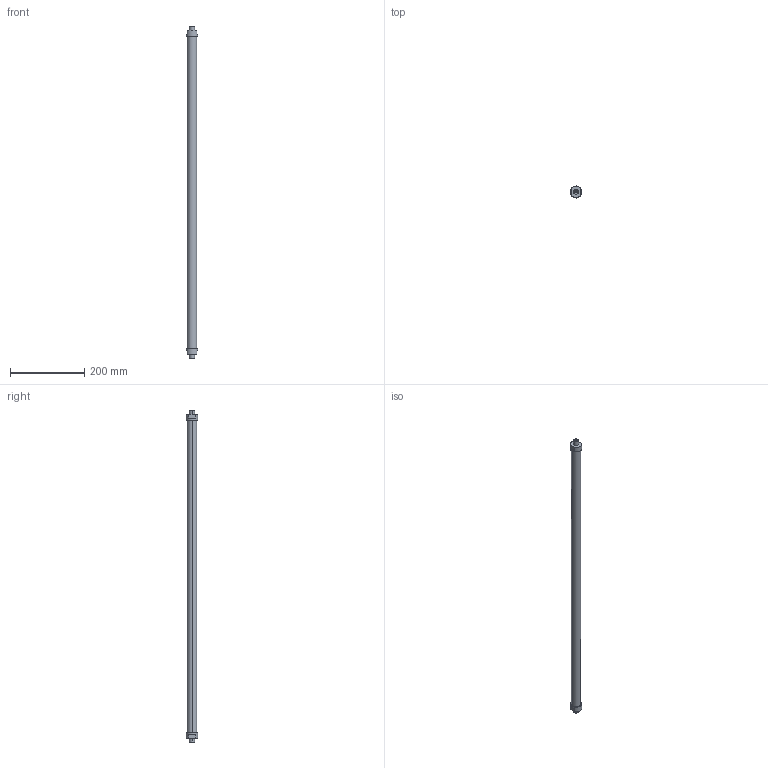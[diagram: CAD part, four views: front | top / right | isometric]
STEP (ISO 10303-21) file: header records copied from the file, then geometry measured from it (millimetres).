
FILE_DESCRIPTION(('STEP AP214'),'1');
FILE_NAME('ETT-R050G884.stp','2015-07-20T08:05:03',(' '),(' '),'Spatial InterOp 3D',' ',' ');
FILE_SCHEMA(('automotive_design'));
Length unit declared in the file: metre
Products named in the file (3): 1; 3; 2
Bounding box: 31 x 31 x 896 mm (x, y, z)
Volume: 413848.4 mm3; surface area: 89520.9 mm2
Topology: 1 solids, 7 shells, 32 faces, 84 edges, 64 vertices
Faces by surface type: cylinder 16, plane 16
Entity records: 1355 total; most frequent: DIRECTION 202, CARTESIAN_POINT 183, ORIENTED_EDGE 144, EDGE_CURVE 84, AXIS2_PLACEMENT_3D 83, VERTEX_POINT 64, CIRCLE 48, EDGE_LOOP 40
